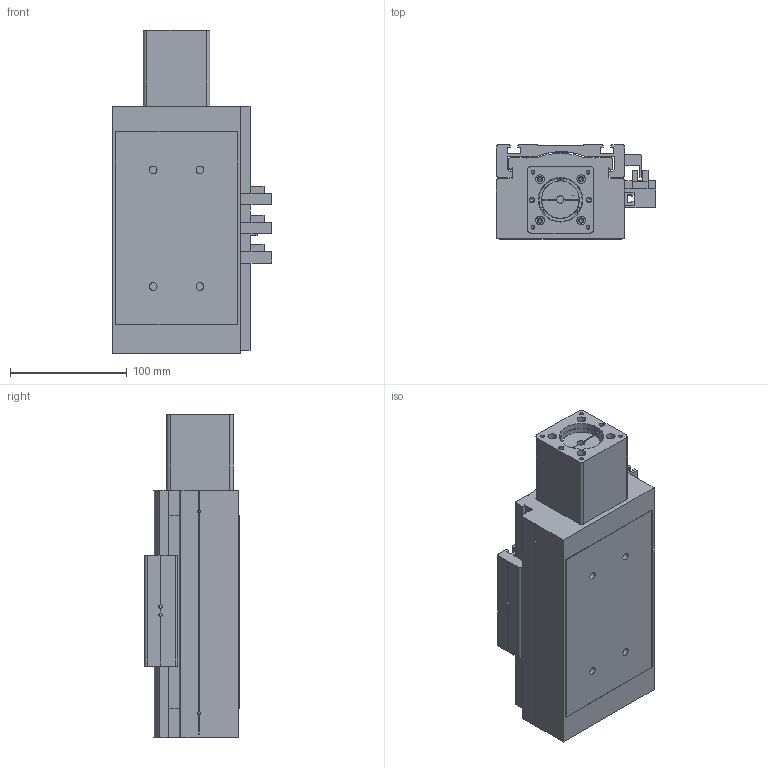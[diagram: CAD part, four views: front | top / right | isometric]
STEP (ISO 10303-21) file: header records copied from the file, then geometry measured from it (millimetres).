
FILE_DESCRIPTION((''),'2;1');
FILE_NAME('E:\libraries\UIA actuator library 2009\standard actuator\UIA110R12(15)DC\UIA110R12(15)DC-ball screw dia.20\UIA110R12(15)DC-_ _ _-R20_ _-M23 step file 20Apr16\UIA110R12(15)DC-050-R20_ _-M23-P13-C10-S.stp','2016-04-20T17:36:09',('h029'),(''),'Autodesk Inventor 11','Autodesk Inventor 11','');
FILE_SCHEMA(('AUTOMOTIVE_DESIGN { 1 0 10303 214 1 1 1 1 }'));
Length unit declared in the file: millimetre
Products named in the file (10): UIA110R12(15)DC-050, ball screw dia.20; body, UIA110R12(15)DC-50,ball screw dia.20; Carriage, UIA110R12(15)DC; Sen Switch, UIA110R12(15)DC; sensor rail, UIA110R12(15)DC-50; SOH-32C; SOH-32C-3; SOH-32C-1; SOH-32C-2; M23 motor mount
Assembly tree (9 placements, depth 3):
  UIA110R12(15)DC-050, ball screw dia.20
    body, UIA110R12(15)DC-50,ball screw dia.20
    Carriage, UIA110R12(15)DC
    Sen Switch, UIA110R12(15)DC
    sensor rail, UIA110R12(15)DC-50
    SOH-32C
      SOH-32C-3
      SOH-32C-1
      SOH-32C-2
    M23 motor mount
Bounding box: 136.5 x 81 x 277 mm (x, y, z)
Volume: 1874530.6 mm3; surface area: 229776 mm2
Topology: 8 solids, 8 shells, 559 faces, 1542 edges, 1007 vertices
Faces by surface type: plane 361, cylinder 106, bspline 75, cone 17
Full cylindrical faces by diameter (mm): 2.459 x2, 3.242 x4, 4 x6, 4.5 x4, 5.5 x3, 6.35 x1, 6.5 x4, 7.5 x4, 9.5 x6, 10 x2, 10.5 x4, 12 x1, 25 x1, 32 x3, 37 x1, 38.1 x1, 42 x1, 42.01 x1, 43.5 x1
Entity records: 18356 total; most frequent: CARTESIAN_POINT 4705, DIRECTION 2715, ORIENTED_EDGE 2686, EDGE_CURVE 1343, VECTOR 943, LINE 943, VERTEX_POINT 938, AXIS2_PLACEMENT_3D 886
